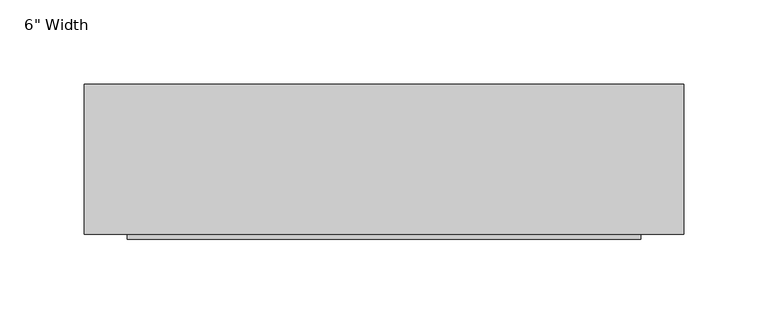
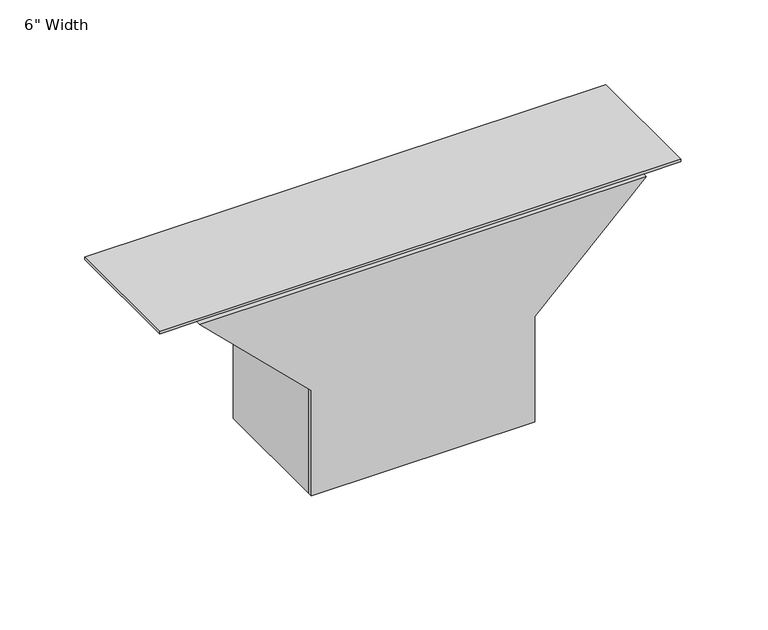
"""IFC4 building model written with IfcOpenShell, lengths in millimetres: proxy geometry."""

import ifcopenshell
import ifcopenshell.guid

model = None  # the IFC model being written
_history = None  # IfcOwnerHistory: only IFC2X3 demands one
_inside = {}  # id of a spatial element -> (the spatial element, [elements in it])
_under = {}  # id of a project, library or spatial element -> (it, [spatial elements below it])
_declared = {}  # id of a project -> (the project, [libraries it declares])
_typed = {}  # id of a type object -> (the type object, [elements of that type])
_made_of = {}  # id of a material, layer set ... -> (it, [elements and type objects made of it])


def new_model(schema):
    """Start an empty IFC model of exactly this schema.

    Asked for "IFC4X3", IfcOpenShell would pick the latest addendum, in which some entities
    have other attributes; the version numbers below select the first issue.
    IFC2X3 requires an IfcOwnerHistory on every rooted entity: one is made here for all.
    """
    global model, _history
    if schema == "IFC4X3":
        model = ifcopenshell.file(schema_version=(4, 3, 0, 0))
    else:
        model = ifcopenshell.file(schema=schema)
    _inside.clear()
    _under.clear()
    _declared.clear()
    _typed.clear()
    _made_of.clear()
    _history = None
    if model.schema == "IFC2X3":
        org = make("IfcOrganization", Name="unknown")
        user = make(
            "IfcPersonAndOrganization",
            ThePerson=make("IfcPerson", FamilyName="unknown"),
            TheOrganization=org,
        )
        app = make(
            "IfcApplication",
            ApplicationDeveloper=org,
            Version="unknown",
            ApplicationFullName="unknown",
            ApplicationIdentifier="unknown",
        )
        _history = make(
            "IfcOwnerHistory",
            OwningUser=user,
            OwningApplication=app,
            ChangeAction="ADDED",
            CreationDate=0,
        )
    return model


def make(cls, **values):
    """One entity of the class cls with the attributes given. An attribute that is None is left unset."""
    return model.create_entity(
        cls, **{name: value for name, value in values.items() if value is not None}
    )


def rooted(cls, **values):
    """An entity with a GlobalId (a new one), such as an element, a storey or a relation."""
    return make(cls, GlobalId=ifcopenshell.guid.new(), OwnerHistory=_history, **values)


def si_unit(unit_type, name, prefix=None):
    """IfcSIUnit, for example si_unit("LENGTHUNIT", "METRE", prefix="MILLI")."""
    return make("IfcSIUnit", UnitType=unit_type, Prefix=prefix, Name=name)


def assignment(units):
    """IfcUnitAssignment: the units of a project."""
    return None if units is None else make("IfcUnitAssignment", Units=units)


def point(xyz):
    """IfcCartesianPoint."""
    return None if xyz is None else make("IfcCartesianPoint", Coordinates=xyz)


def direction(xyz):
    """IfcDirection."""
    return None if xyz is None else make("IfcDirection", DirectionRatios=xyz)


def frame(location, z_axis=None, x_axis=None):
    """IfcAxis2Placement3D, a coordinate frame: its origin and axes. An axis left out is left unset."""
    return make(
        "IfcAxis2Placement3D",
        Location=point(location),
        Axis=direction(z_axis),
        RefDirection=direction(x_axis),
    )


def origin():
    """The frame at (0, 0, 0) with its axes left unset."""
    return frame((0.0, 0.0, 0.0))


def place(relative_to, where):
    """IfcLocalPlacement: puts the frame where relative to a parent placement (None: the world)."""
    return make(
        "IfcLocalPlacement", PlacementRelTo=relative_to, RelativePlacement=where
    )


def context(
    kind, dimensions, precision=None, world=None, true_north=None, identifier=None
):
    """IfcGeometricRepresentationContext, for example the 3D "Model" context."""
    return make(
        "IfcGeometricRepresentationContext",
        ContextIdentifier=identifier,
        ContextType=kind,
        CoordinateSpaceDimension=dimensions,
        Precision=precision,
        WorldCoordinateSystem=world,
        TrueNorth=true_north,
    )


def project(units=None, contexts=None):
    """IfcProject with its units and contexts."""
    return rooted(
        "IfcProject",
        Name="project",
        RepresentationContexts=contexts,
        UnitsInContext=assignment(units),
    )


def spatial(cls, under=None, at=None, **own):
    """A site, building, storey or space (cls), placed at a placement, below another one or the project."""
    s = rooted(cls, ObjectPlacement=at, **own)
    if under is not None:
        _under.setdefault(under.id(), (under, []))[1].append(s)
    return s


def polyline(points):
    """IfcPolyline through the points."""
    return make("IfcPolyline", Points=[point(p) for p in points])


def outline(outer, holes=None, kind="AREA"):
    """IfcArbitraryClosedProfileDef: a profile drawn as a closed curve; with holes, ...WithVoids."""
    if holes is None:
        return make("IfcArbitraryClosedProfileDef", ProfileType=kind, OuterCurve=outer)
    return make(
        "IfcArbitraryProfileDefWithVoids",
        ProfileType=kind,
        OuterCurve=outer,
        InnerCurves=holes,
    )


def extrude(swept, where, along, depth):
    """IfcExtrudedAreaSolid: the profile swept, set in the frame where, extruded along a direction by depth."""
    return make(
        "IfcExtrudedAreaSolid",
        SweptArea=swept,
        Position=where,
        ExtrudedDirection=direction(along),
        Depth=depth,
    )


def shape(context_of_items, identifier, shape_type, items):
    """IfcShapeRepresentation: the items that make up one representation, for example the "Body"."""
    return make(
        "IfcShapeRepresentation",
        ContextOfItems=context_of_items,
        RepresentationIdentifier=identifier,
        RepresentationType=shape_type,
        Items=items,
    )


def source(mapping_origin, context_of_items, identifier, shape_type, items):
    """IfcRepresentationMap: a shape defined once, which mapped items show again and again."""
    return make(
        "IfcRepresentationMap",
        MappingOrigin=mapping_origin,
        MappedRepresentation=shape(context_of_items, identifier, shape_type, items),
    )


def transform(
    local_origin,
    x_axis=None,
    y_axis=None,
    z_axis=None,
    scale=None,
    scale2=None,
    scale3=None,
    uniform=True,
):
    """IfcCartesianTransformationOperator3D, or its non-uniform kind. x_axis, y_axis, z_axis: its Axis1, 2, 3."""
    if uniform:
        return make(
            "IfcCartesianTransformationOperator3D",
            Axis1=direction(x_axis),
            Axis2=direction(y_axis),
            LocalOrigin=point(local_origin),
            Scale=scale,
            Axis3=direction(z_axis),
        )
    return make(
        "IfcCartesianTransformationOperator3DnonUniform",
        Axis1=direction(x_axis),
        Axis2=direction(y_axis),
        LocalOrigin=point(local_origin),
        Scale=scale,
        Axis3=direction(z_axis),
        Scale2=scale2,
        Scale3=scale3,
    )


def mapped(mapping_source, mapping_target):
    """IfcMappedItem: shows the shape of a source again, moved by a transform."""
    return make(
        "IfcMappedItem", MappingSource=mapping_source, MappingTarget=mapping_target
    )


def made_of(thing, what):
    """Note that an element or type object is made of a material, layer set ...; save() writes the relation."""
    if what is not None:
        _made_of.setdefault(what.id(), (what, []))[1].append(thing)
    return thing


def element(
    cls,
    number,
    at=None,
    inside=None,
    cuts=None,
    type_object=None,
    material=None,
    context=None,
    identifier="Body",
    shape_type=None,
    held_by="IfcProductDefinitionShape",
    body=None,
    shapes=None,
    **own,
):
    """One element of the class cls, such as IfcWall. Its Tag is "e" and its number.

    at: its placement. inside: the storey or other place that contains it. cuts: it is an
    opening in that element (IfcRelVoidsElement). A single representation is given by context,
    identifier, shape_type and body (its items); several are given by shapes. held_by: the class
    of the entity that holds the representations. save() writes the other relations.
    """
    e = rooted(cls, Tag="e%d" % number, ObjectPlacement=at, **own)
    if body is not None:
        shapes = [shape(context, identifier, shape_type, body)]
    if shapes is not None:
        e.Representation = make(held_by, Representations=shapes)
    if inside is not None:
        _inside.setdefault(inside.id(), (inside, []))[1].append(e)
    if cuts is not None:
        rooted(
            "IfcRelVoidsElement", RelatingBuildingElement=cuts, RelatedOpeningElement=e
        )
    if type_object is not None:
        _typed.setdefault(type_object.id(), (type_object, []))[1].append(e)
    return made_of(e, material)


def aggregate(whole, parts):
    """IfcRelAggregates: a whole, such as a stair, and the parts it consists of."""
    return rooted("IfcRelAggregates", RelatingObject=whole, RelatedObjects=parts)


def save(model, path):
    """Write the relations noted so far, then the file.

    IfcRelAggregates (storeys below a building ...), IfcRelContainedInSpatialStructure (elements
    in a storey), IfcRelDefinesByType, IfcRelAssociatesMaterial and IfcRelDeclares: one each for
    every whole, place, type object, material and project.
    """
    for whole, parts in _under.values():
        aggregate(whole, parts)
    for where, things in _inside.values():
        rooted(
            "IfcRelContainedInSpatialStructure",
            RelatedElements=things,
            RelatingStructure=where,
        )
    for kind, things in _typed.values():
        rooted("IfcRelDefinesByType", RelatedObjects=things, RelatingType=kind)
    for what, things in _made_of.values():
        rooted("IfcRelAssociatesMaterial", RelatedObjects=things, RelatingMaterial=what)
    for by, libraries in _declared.values():
        rooted("IfcRelDeclares", RelatingContext=by, RelatedDefinitions=libraries)
    model.write(path)


def proxy_dc11ac28(model_context):
    return source(origin(), model_context, "Body", "SweptSolid", [
        extrude(outline(polyline([(76.2, -76.2), (0.0, -76.2), (0.0, 76.2), (76.2, 76.2), (150.622, 152.4), (150.622, -152.4), (76.2, -76.2)])), frame((0.0, -47.625, 0.0), z_axis=(0.0, 1.0, 0.0), x_axis=(0.0, 0.0, 1.0)), (0.0, 0.0, 1.0), 3.175),
        extrude(outline(polyline([(76.2, -76.2), (0.0, -76.2), (0.0, 76.2), (76.2, 76.2), (150.622, 152.4), (150.622, 177.8), (152.4, 177.8), (152.4, -177.8), (150.622, -177.8), (150.622, -152.4), (76.2, -76.2)])), frame((0.0, -44.45, 0.0), z_axis=(0.0, 1.0, 0.0), x_axis=(0.0, 0.0, 1.0)), (0.0, 0.0, 1.0), 88.9),
    ])


if __name__ == "__main__":
    model = new_model("IFC4")
    model_context = context("Model", 3, world=origin())
    ifc_project = project(units=[si_unit("LENGTHUNIT", "METRE", prefix="MILLI")], contexts=[model_context])
    site = spatial("IfcSite", under=ifc_project)
    building = spatial("IfcBuilding", under=site)
    placement = place(None, origin())
    proxy_shape = proxy_dc11ac28(model_context)
    element("IfcBuildingElementProxy", 1, Name="Cabinet_Connector-Wallduct-Wiremold-Flanged : 6\" Width", ObjectType="Cabinet_Connector-Wallduct-Wiremold-Flanged : 6\" Width", at=placement, inside=building, context=model_context, shape_type="MappedRepresentation", body=[
        mapped(proxy_shape, transform((0.0, 0.0, 0.0), x_axis=(1.0, 0.0, 0.0), y_axis=(0.0, 1.0, 0.0), z_axis=(0.0, 0.0, 1.0))),
    ])
    save(model, "model.ifc")
